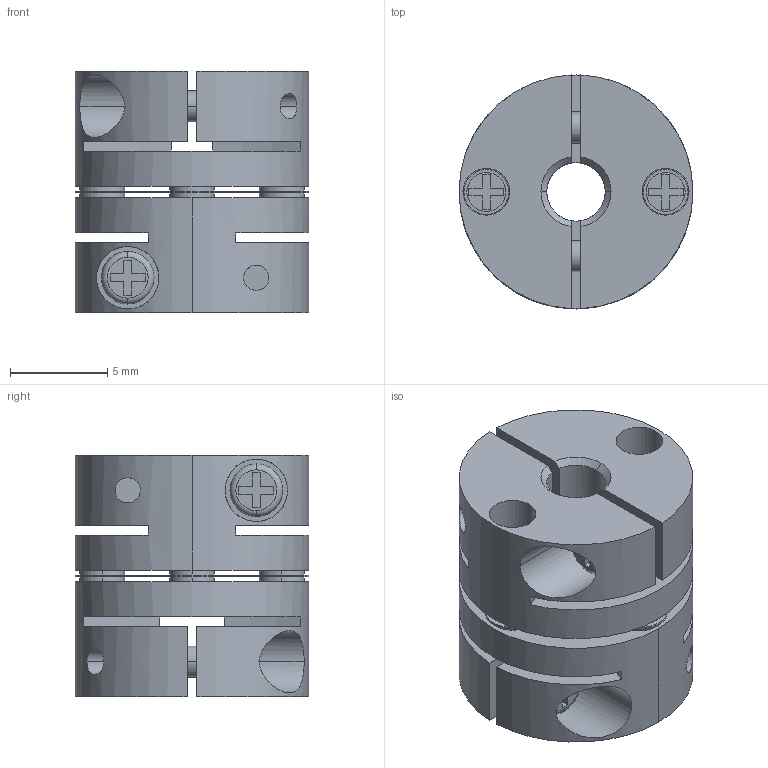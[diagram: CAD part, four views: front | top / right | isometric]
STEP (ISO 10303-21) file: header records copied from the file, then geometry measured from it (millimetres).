
FILE_DESCRIPTION((''),'2;1');
FILE_NAME('LAS-12C-3×4.stp','2011-08-11T11:57:03',(''),(''),'AutoCAD STEP 2000i','AutoCAD 2000i',', , ');
FILE_SCHEMA(('CONFIG_CONTROL_DESIGN'));
Length unit declared in the file: millimetre
Products named in the file (5): LAS-12C-3×3; 忣兜1; LA-1202-D03-1; LA-1202-D03; LAS12-ITA
Assembly tree (4 placements, depth 2):
  LAS-12C-3×3
    忣兜1
    LA-1202-D03-1
    LA-1202-D03
    LAS12-ITA
Bounding box: 12 x 12 x 12.4 mm (x, y, z)
Volume: 929.2 mm3; surface area: 1805.3 mm2
Topology: 1 solids, 1 shells, 264 faces, 692 edges, 460 vertices
Faces by surface type: plane 156, cylinder 88, cone 12, torus 8
Entity records: 8707 total; most frequent: CARTESIAN_POINT 1805, DIRECTION 1438, ORIENTED_EDGE 1384, EDGE_CURVE 692, AXIS2_PLACEMENT_3D 501, VERTEX_POINT 460, VECTOR 436, LINE 436
